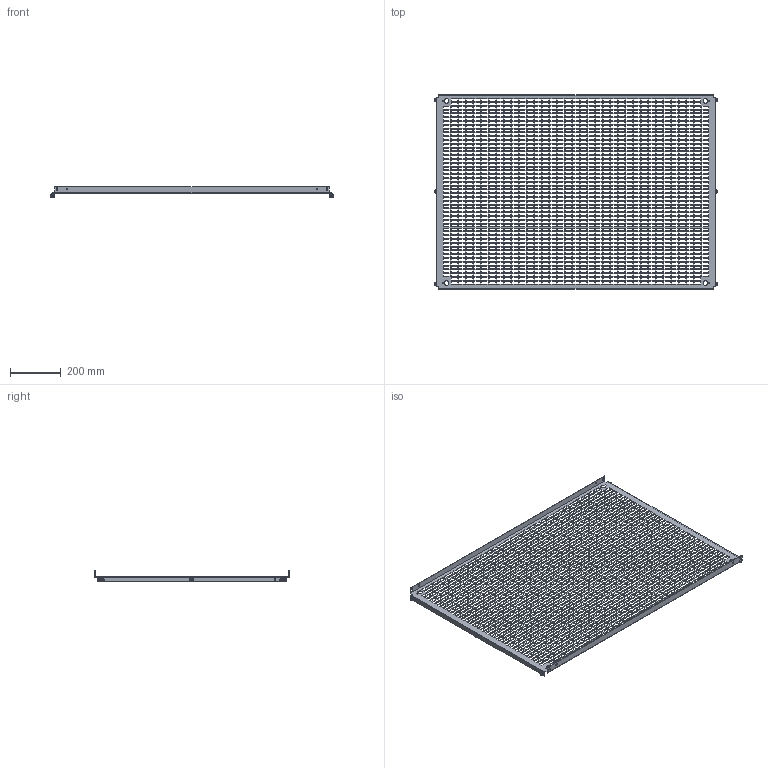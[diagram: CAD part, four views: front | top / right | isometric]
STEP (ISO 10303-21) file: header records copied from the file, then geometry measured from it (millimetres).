
FILE_DESCRIPTION(('Open CASCADE Model'),'2;1');
FILE_NAME('Open CASCADE Shape Model','2025-02-19T16:54:52',('Author'),( 'Open CASCADE'),'Open CASCADE STEP processor 7.8','Open CASCADE 7.8' ,'Unknown');
FILE_SCHEMA(('AUTOMOTIVE_DESIGN { 1 0 10303 214 1 1 1 1 }'));
Length unit declared in the file: millimetre
Products named in the file (4): Compound1; Solid1; Solid2; Solid3
Assembly tree (13 placements, depth 2):
  Compound1
    Solid1
    Solid2  x6
    Solid3  x6
Bounding box: 1119 x 769 x 42.59 mm (x, y, z)
Volume: 1085157.5 mm3; surface area: 1196255.8 mm2
Topology: 13 solids, 13 shells, 7289 faces, 21590 edges, 14340 vertices
Faces by surface type: plane 7044, cone 102, bspline 87, cylinder 38, torus 18
Full cylindrical faces by diameter (mm): 5 x6, 6 x12, 7 x16
Entity records: 239808 total; most frequent: CARTESIAN_POINT 43609, ORIENTED_EDGE 42050, DIRECTION 35018, EDGE_CURVE 21025, LINE 20830, VECTOR 20830, VERTEX_POINT 14010, FACE_BOUND 10501
